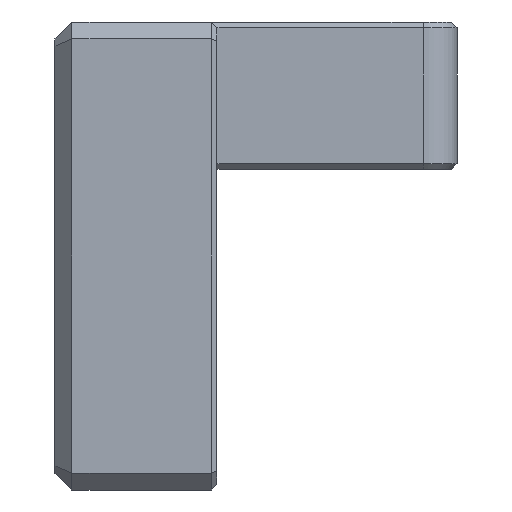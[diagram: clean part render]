
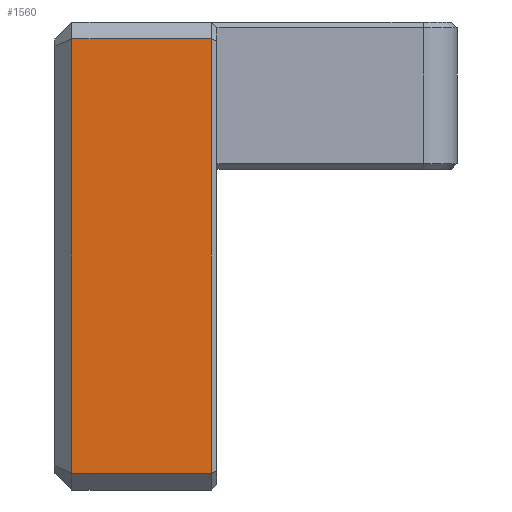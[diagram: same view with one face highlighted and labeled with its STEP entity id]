
A CAD part, left-side view. The second image highlights one B-rep face of the part: STEP entity #1560.
In plain terms, the highlighted planar face has unit normal (-1, 0, 0).
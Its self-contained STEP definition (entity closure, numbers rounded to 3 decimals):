
#12 = EDGE_CURVE ( 'NONE', #5951, #1417, #792, .T. ) ;
#26 = ORIENTED_EDGE ( 'NONE', *, *, #12, .T. ) ;
#117 = DIRECTION ( 'NONE',  ( 0., 0., 1. ) ) ;
#187 = ORIENTED_EDGE ( 'NONE', *, *, #2107, .T. ) ;
#195 = CARTESIAN_POINT ( 'NONE',  ( -82.5, -6.65, -39.8 ) ) ;
#321 = CARTESIAN_POINT ( 'NONE',  ( -82.5, 5.65, -1.5 ) ) ;
#566 = VERTEX_POINT ( 'NONE', #3356 ) ;
#792 = LINE ( 'NONE', #1884, #6032 ) ;
#918 = DIRECTION ( 'NONE',  ( 0., 0., -1. ) ) ;
#1008 = EDGE_LOOP ( 'NONE', ( #4948, #187, #1582, #26 ) ) ;
#1107 = CARTESIAN_POINT ( 'NONE',  ( -82.5, 7.15, -1.5 ) ) ;
#1235 = VECTOR ( 'NONE', #3503, 1000. ) ;
#1417 = VERTEX_POINT ( 'NONE', #3805 ) ;
#1525 = AXIS2_PLACEMENT_3D ( 'NONE', #2018, #2035, #117 ) ;
#1560 = ADVANCED_FACE ( 'NONE', ( #3672 ), #4431, .T. ) ;
#1582 = ORIENTED_EDGE ( 'NONE', *, *, #3801, .T. ) ;
#1736 = DIRECTION ( 'NONE',  ( 0., 0., 1. ) ) ;
#1884 = CARTESIAN_POINT ( 'NONE',  ( -82.5, 5.65, -41.3 ) ) ;
#1996 = VECTOR ( 'NONE', #1736, 1000. ) ;
#2018 = CARTESIAN_POINT ( 'NONE',  ( -82.5, 7.15, -41.3 ) ) ;
#2035 = DIRECTION ( 'NONE',  ( -1., 0., 0. ) ) ;
#2107 = EDGE_CURVE ( 'NONE', #4223, #566, #3052, .T. ) ;
#2203 = CARTESIAN_POINT ( 'NONE',  ( -82.5, -6.65, -41.3 ) ) ;
#2285 = LINE ( 'NONE', #3434, #1235 ) ;
#2811 = VECTOR ( 'NONE', #5847, 1000. ) ;
#3052 = LINE ( 'NONE', #2203, #1996 ) ;
#3356 = CARTESIAN_POINT ( 'NONE',  ( -82.5, -6.65, -1.5 ) ) ;
#3434 = CARTESIAN_POINT ( 'NONE',  ( -82.5, -7.15, -39.8 ) ) ;
#3503 = DIRECTION ( 'NONE',  ( 0., -1., 0. ) ) ;
#3672 = FACE_OUTER_BOUND ( 'NONE', #1008, .T. ) ;
#3801 = EDGE_CURVE ( 'NONE', #566, #5951, #4267, .T. ) ;
#3805 = CARTESIAN_POINT ( 'NONE',  ( -82.5, 5.65, -39.8 ) ) ;
#4153 = EDGE_CURVE ( 'NONE', #1417, #4223, #2285, .T. ) ;
#4223 = VERTEX_POINT ( 'NONE', #195 ) ;
#4267 = LINE ( 'NONE', #1107, #2811 ) ;
#4431 = PLANE ( 'NONE',  #1525 ) ;
#4948 = ORIENTED_EDGE ( 'NONE', *, *, #4153, .T. ) ;
#5847 = DIRECTION ( 'NONE',  ( 0., 1., 0. ) ) ;
#5951 = VERTEX_POINT ( 'NONE', #321 ) ;
#6032 = VECTOR ( 'NONE', #918, 1000. ) ;
